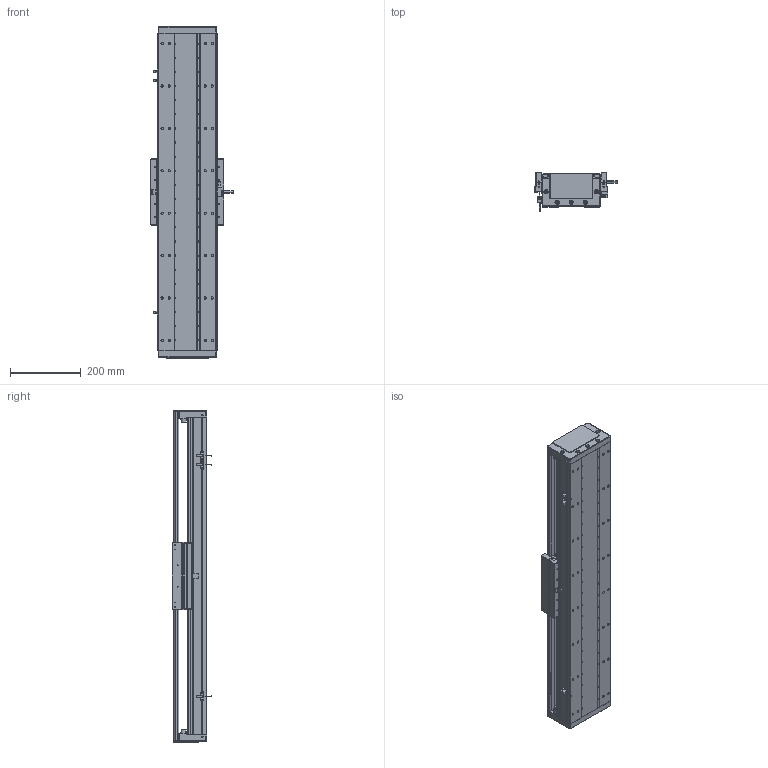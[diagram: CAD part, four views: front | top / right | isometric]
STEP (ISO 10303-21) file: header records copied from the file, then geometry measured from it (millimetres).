
FILE_DESCRIPTION (( 'STEP AP203' ), '1' );
FILE_NAME ('DA-C165-C2-T6600-C010-0.2 直线电机.STEP', '2023-05-11T07:31:22', ( '微软用户' ), ( '微软中国' ), 'SwSTEP 2.0', 'SolidWorks 2019', '' );
FILE_SCHEMA (( 'CONFIG_CONTROL_DESIGN' ));
Length unit declared in the file: millimetre
Products named in the file (15): 复件 DA165-T-002-00 盖板^DA-C165-C2-T-C010-0.2-N 直线电机_0840-002-00; 葩璃 CKM01-W075-TRL^DA-C165-C2-T-C010-0.2-N 眻盄萇儂; 复件 XD-U-02L 磁栅尺^DA-C165-C2-T-C010-0.2-N 直线电机_T; DA-C165-C2-T6600-C010-0.2 眻盄萇儂; 葩璃 DA95-GT-T-00^IU-CU165-L 菁釱絳寢_T; 葩璃 PM-T45^DA-C165-C2-T-C010-0.2-N 眻盄萇儂; 珨极趙賑雄怢啣wf-C2; 复件 DA95-HXJ-00 缓冲橡胶^DA-C165-C2-T-C010-0.2-N 直线电机; 复件 DMA-010-0.2 读数头^DA-C165-C2-T-C010-0.2-N 直线电机; 复件 六角薄螺母 M3^DA-C165-C2-T-C010-0.2-N 直线电机_GB_FASTENER_NUT_STNAB M3-C; IU-CU165-L-00 菁釱_L900; IU-CU165-L 菁釱絳寢; 复件 CKM02-W075-C1C2-TP-3.0 一体电机-C2^DA-C165-C2-T-C010-0.2-N 直线电机; 复件 DA165-DG-H-N-00 端盖^DA-C165-C2-T-C010-0.2-N 直线电机; 复件 DA165-GYP-00 光电感应片^DA-C165-C2-T-C010-0.2-N 直线电机
Assembly tree (28 placements, depth 3):
  DA-C165-C2-T6600-C010-0.2 眻盄萇儂
    IU-CU165-L 菁釱絳寢
      IU-CU165-L-00 菁釱_L900
      葩璃 DA95-GT-T-00^IU-CU165-L 菁釱絳寢_T  x4
    复件 DA165-DG-H-N-00 端盖^DA-C165-C2-T-C010-0.2-N 直线电机  x2
    复件 DA95-HXJ-00 缓冲橡胶^DA-C165-C2-T-C010-0.2-N 直线电机  x4
    复件 DA165-T-002-00 盖板^DA-C165-C2-T-C010-0.2-N 直线电机_0840-002-00
    复件 XD-U-02L 磁栅尺^DA-C165-C2-T-C010-0.2-N 直线电机_T
    葩璃 PM-T45^DA-C165-C2-T-C010-0.2-N 眻盄萇儂  x3
    葩璃 CKM01-W075-TRL^DA-C165-C2-T-C010-0.2-N 眻盄萇儂
    复件 DA165-GYP-00 光电感应片^DA-C165-C2-T-C010-0.2-N 直线电机
    复件 DMA-010-0.2 读数头^DA-C165-C2-T-C010-0.2-N 直线电机
    复件 CKM02-W075-C1C2-TP-3.0 一体电机-C2^DA-C165-C2-T-C010-0.2-N 直线电机
    复件 六角薄螺母 M3^DA-C165-C2-T-C010-0.2-N 直线电机_GB_FASTENER_NUT_STNAB M3-C  x6
    珨极趙賑雄怢啣wf-C2
Bounding box: 233 x 111.45 x 940 mm (x, y, z)
Volume: 7107038.8 mm3; surface area: 1915588.5 mm2
Topology: 66 solids, 66 shells, 3024 faces, 8240 edges, 5163 vertices
Faces by surface type: cylinder 1503, plane 1057, cone 406, torus 54, sphere 4
Entity records: 90033 total; most frequent: CARTESIAN_POINT 20686, DIRECTION 14318, ORIENTED_EDGE 13954, EDGE_CURVE 6977, AXIS2_PLACEMENT_3D 5365, VERTEX_POINT 4499, LINE 3588, VECTOR 3588
